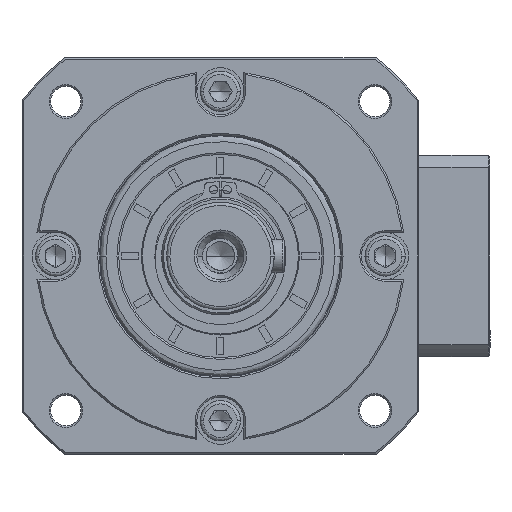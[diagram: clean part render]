
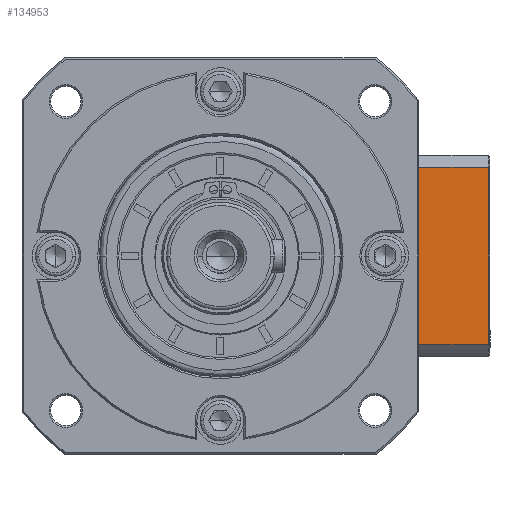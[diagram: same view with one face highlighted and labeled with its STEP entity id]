
A CAD part, left-side view. The second image highlights one B-rep face of the part: STEP entity #134953.
In plain terms, the highlighted planar face has unit normal (-1, 0, 0).
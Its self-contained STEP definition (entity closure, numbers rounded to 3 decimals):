
#1335 = CARTESIAN_POINT ( 'NONE',  ( -38.361, -77.689, -93.691 ) ) ;
#1494 = CARTESIAN_POINT ( 'NONE',  ( -38.361, -72.689, -138.176 ) ) ;
#3645 = CARTESIAN_POINT ( 'NONE',  ( -38.361, -73.438, -100.666 ) ) ;
#5077 = CARTESIAN_POINT ( 'NONE',  ( -38.361, -58.189, -87.649 ) ) ;
#5482 = CARTESIAN_POINT ( 'NONE',  ( -38.361, -73.438, -139.631 ) ) ;
#6361 = EDGE_CURVE ( 'NONE', #118917, #154206, #59557, .T. ) ;
#7182 = ORIENTED_EDGE ( 'NONE', *, *, #148590, .F. ) ;
#17220 = CARTESIAN_POINT ( 'NONE',  ( -38.361, -72.689, -102.121 ) ) ;
#17237 = EDGE_CURVE ( 'NONE', #69185, #66706, #114671, .T. ) ;
#18663 = DIRECTION ( 'NONE',  ( 0., 0., -1. ) ) ;
#27436 = CARTESIAN_POINT ( 'NONE',  ( -38.361, -99.889, -146.606 ) ) ;
#30873 = AXIS2_PLACEMENT_3D ( 'NONE', #143393, #62558, #157019 ) ;
#33305 = CARTESIAN_POINT ( 'NONE',  ( -38.361, -99.889, -93.691 ) ) ;
#36998 = ORIENTED_EDGE ( 'NONE', *, *, #17237, .F. ) ;
#42441 = CARTESIAN_POINT ( 'NONE',  ( -38.361, -100.389, -146.606 ) ) ;
#44459 = CARTESIAN_POINT ( 'NONE',  ( -38.361, -75.912, -96.436 ) ) ;
#50170 = VECTOR ( 'NONE', #136258, 1000. ) ;
#51158 = FACE_OUTER_BOUND ( 'NONE', #137537, .T. ) ;
#53154 = EDGE_CURVE ( 'NONE', #108842, #90511, #69477, .T. ) ;
#57103 = EDGE_CURVE ( 'NONE', #135796, #108842, #97369, .T. ) ;
#58003 = CARTESIAN_POINT ( 'NONE',  ( -38.361, -77.689, -93.691 ) ) ;
#59557 = LINE ( 'NONE', #1494, #91178 ) ;
#59837 = VECTOR ( 'NONE', #132745, 1000. ) ;
#62558 = DIRECTION ( 'NONE',  ( 1., 0., 0. ) ) ;
#63591 = VERTEX_POINT ( 'NONE', #133711 ) ;
#63745 = ORIENTED_EDGE ( 'NONE', *, *, #53154, .F. ) ;
#64037 = VECTOR ( 'NONE', #18663, 1000. ) ;
#66706 = VERTEX_POINT ( 'NONE', #121255 ) ;
#67326 = CARTESIAN_POINT ( 'NONE',  ( -38.361, -99.889, -150.149 ) ) ;
#68256 = LINE ( 'NONE', #5077, #64037 ) ;
#69185 = VERTEX_POINT ( 'NONE', #92432 ) ;
#69477 = LINE ( 'NONE', #67326, #137043 ) ;
#78464 = CARTESIAN_POINT ( 'NONE',  ( -38.361, -100.389, -102.121 ) ) ;
#86369 = CARTESIAN_POINT ( 'NONE',  ( -38.361, -74.238, -141.056 ) ) ;
#89049 = PLANE ( 'NONE',  #30873 ) ;
#90331 = ORIENTED_EDGE ( 'NONE', *, *, #102613, .F. ) ;
#90511 = VERTEX_POINT ( 'NONE', #27436 ) ;
#91178 = VECTOR ( 'NONE', #97061, 1000. ) ;
#92432 = CARTESIAN_POINT ( 'NONE',  ( -38.361, -58.189, -102.121 ) ) ;
#97061 = DIRECTION ( 'NONE',  ( 0., 1., 0. ) ) ;
#97369 = LINE ( 'NONE', #121928, #129079 ) ;
#99918 = CARTESIAN_POINT ( 'NONE',  ( -38.361, -72.689, -138.176 ) ) ;
#102613 = EDGE_CURVE ( 'NONE', #90511, #63591, #157945, .T. ) ;
#108842 = VERTEX_POINT ( 'NONE', #33305 ) ;
#114671 = LINE ( 'NONE', #78464, #59837 ) ;
#118917 = VERTEX_POINT ( 'NONE', #136237 ) ;
#121255 = CARTESIAN_POINT ( 'NONE',  ( -38.361, -72.689, -102.121 ) ) ;
#121928 = CARTESIAN_POINT ( 'NONE',  ( -38.361, -100.389, -93.691 ) ) ;
#125256 = CARTESIAN_POINT ( 'NONE',  ( -38.361, -74.238, -99.241 ) ) ;
#125270 = B_SPLINE_CURVE_WITH_KNOTS ( 'NONE', 3,
 ( #17220, #3645, #125256, #44459, #138869, #58003 ),
 .UNSPECIFIED., .F., .F.,
 ( 4, 2, 4 ),
 ( 0., 0.005, 0.01 ),
 .UNSPECIFIED. ) ;
#126234 = CARTESIAN_POINT ( 'NONE',  ( -38.361, -58.189, -138.176 ) ) ;
#129079 = VECTOR ( 'NONE', #135529, 1000. ) ;
#129358 = ORIENTED_EDGE ( 'NONE', *, *, #57103, .F. ) ;
#132266 = EDGE_CURVE ( 'NONE', #69185, #154206, #68256, .T. ) ;
#132745 = DIRECTION ( 'NONE',  ( 0., -1., 0. ) ) ;
#133711 = CARTESIAN_POINT ( 'NONE',  ( -38.361, -77.689, -146.606 ) ) ;
#134953 = ADVANCED_FACE ( 'NONE', ( #51158 ), #89049, .F. ) ;
#135529 = DIRECTION ( 'NONE',  ( 0., -1., 0. ) ) ;
#135796 = VERTEX_POINT ( 'NONE', #1335 ) ;
#136237 = CARTESIAN_POINT ( 'NONE',  ( -38.361, -72.689, -138.176 ) ) ;
#136258 = DIRECTION ( 'NONE',  ( 0., 1., 0. ) ) ;
#137043 = VECTOR ( 'NONE', #161806, 1000. ) ;
#137537 = EDGE_LOOP ( 'NONE', ( #63745, #129358, #149747, #36998, #159091, #150888, #7182, #90331 ) ) ;
#138869 = CARTESIAN_POINT ( 'NONE',  ( -38.361, -76.787, -95.055 ) ) ;
#138918 = CARTESIAN_POINT ( 'NONE',  ( -38.361, -76.787, -145.242 ) ) ;
#143393 = CARTESIAN_POINT ( 'NONE',  ( -38.361, -100.389, -150.149 ) ) ;
#148590 = EDGE_CURVE ( 'NONE', #63591, #118917, #157236, .T. ) ;
#149747 = ORIENTED_EDGE ( 'NONE', *, *, #170092, .F. ) ;
#150888 = ORIENTED_EDGE ( 'NONE', *, *, #6361, .F. ) ;
#153738 = CARTESIAN_POINT ( 'NONE',  ( -38.361, -77.689, -146.606 ) ) ;
#154206 = VERTEX_POINT ( 'NONE', #126234 ) ;
#157019 = DIRECTION ( 'NONE',  ( 0., 1., 0. ) ) ;
#157236 = B_SPLINE_CURVE_WITH_KNOTS ( 'NONE', 3,
 ( #153738, #138918, #167337, #86369, #5482, #99918 ),
 .UNSPECIFIED., .F., .F.,
 ( 4, 2, 4 ),
 ( 0., 0.005, 0.01 ),
 .UNSPECIFIED. ) ;
#157945 = LINE ( 'NONE', #42441, #50170 ) ;
#159091 = ORIENTED_EDGE ( 'NONE', *, *, #132266, .T. ) ;
#161806 = DIRECTION ( 'NONE',  ( 0., 0., -1. ) ) ;
#167337 = CARTESIAN_POINT ( 'NONE',  ( -38.361, -75.912, -143.861 ) ) ;
#170092 = EDGE_CURVE ( 'NONE', #66706, #135796, #125270, .T. ) ;
